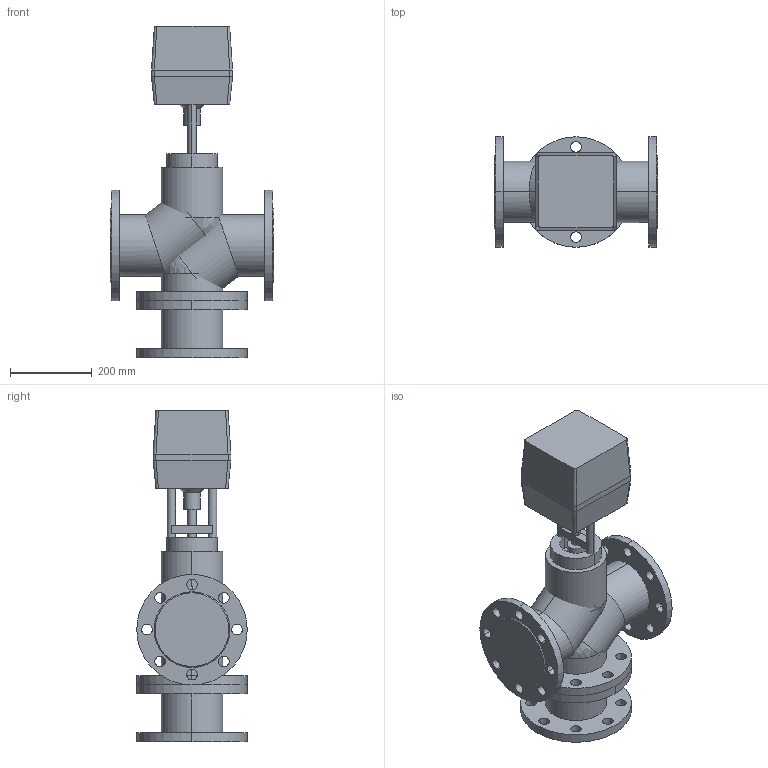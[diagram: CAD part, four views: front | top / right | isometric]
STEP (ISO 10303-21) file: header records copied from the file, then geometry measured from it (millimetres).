
FILE_DESCRIPTION(/* description */ (''),/* implementation_level */ '2;1');
FILE_NAME(/* name */ 'ТРК DN125 PN 2.5 МПа LEA 10000',/* time_stamp */ '2026-07-14T23:05:02+03:00',/* author */ (''),/* organization */ (''),/* preprocessor_version */ 'ST-DEVELOPER v20',/* originating_system */ '',/* authorisation */ '');
FILE_SCHEMA (('AP242_MANAGED_MODEL_BASED_3D_ENGINEERING_MIM_LF { 1 0 10303 442 1 1 4 }'));
Length unit declared in the file: millimetre
Products named in the file (16): TopLevelAssembly; Выдавливание; Модификатор; Модификатор_1; Выдавливание_
1; Выдавливание_
2; Вращение; Выдавливание_
3; Выдавливание_
4; Выдавливание_
5; Выдавливание_
6; Выдавливание_
7; 1600; Переход; Объемная геометрия 
присоединена; Объемная геометрия 
присоединена_1
Assembly tree (15 placements, depth 2):
  TopLevelAssembly
    Выдавливание
    Модификатор
    Модификатор_1
    Выдавливание_
1
    Выдавливание_
2
    Вращение
    Выдавливание_
3
    Выдавливание_
4
    Выдавливание_
5
    Выдавливание_
6
    Выдавливание_
7
    1600
    Переход
    Объемная геометрия 
присоединена
    Объемная геометрия 
присоединена_1
Bounding box: 400 x 270 x 810 mm (x, y, z)
Volume: 26974849.1 mm3; surface area: 1771121 mm2
Topology: 25 solids, 25 shells, 227 faces, 531 edges, 348 vertices
Faces by surface type: cylinder 140, plane 69, bspline 14, cone 4
Entity records: 7541 total; most frequent: CARTESIAN_POINT 1427, DIRECTION 1324, ORIENTED_EDGE 1046, AXIS2_PLACEMENT_3D 557, EDGE_CURVE 523, VERTEX_POINT 348, EDGE_LOOP 321, CIRCLE 305
